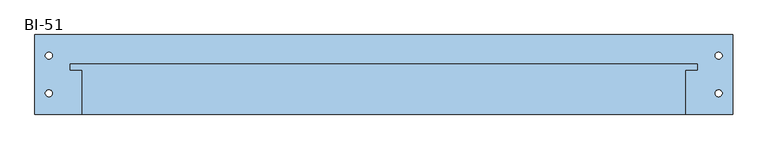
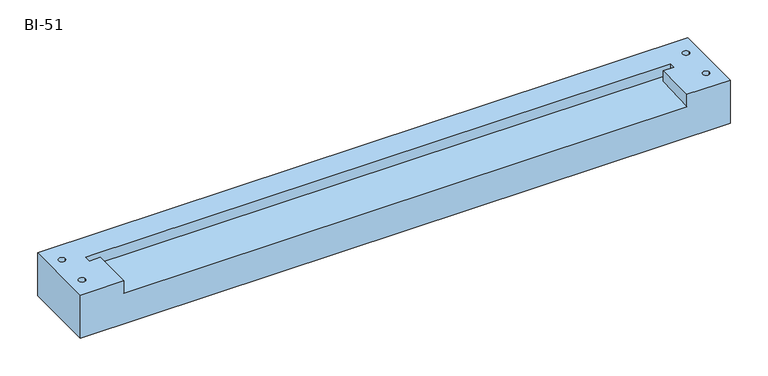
"""IFC4 building model written with IfcOpenShell, lengths in millimetres: window geometry, 30_NS_BI_51-57 : BI-51."""

from ifc_helpers import new_model, si_unit, frame, origin, place, context, project, spatial, polyline, circle_curve, source, transform, mapped, element, save
from ifc_brep_helpers import plane_surface, revolved_surface, advanced_brep


def bi_51_9fc36c22(model_context):
    return source(origin(), model_context, "Body", "AdvancedBrep", [
        advanced_brep(
        [(0.0, -114.0, 0.0), (0.0, 0.0, 0.0), (933.0, 0.0, 0.0), (1000.0, 0.0, 0.0), (1000.0, -114.0, 0.0), (975.0, -84.0, 0.0), (985.0, -84.0, 0.0), (975.0, -30.0, 0.0), (985.0, -30.0, 0.0), (15.0, -84.0, 0.0), (25.0, -84.0, 0.0), (15.0, -30.0, 0.0), (25.0, -30.0, 0.0), (0.0, -114.0, 70.0), (67.0, -114.0, 70.0), (67.0, -51.0, 70.0), (50.0, -51.0, 70.0), (50.0, -41.0, 70.0), (950.0, -41.0, 70.0), (950.0, -51.0, 70.0), (933.0, -51.0, 70.0), (933.0, -114.0, 70.0), (1000.0, -114.0, 70.0), (1000.0, 0.0, 70.0), (0.0, 0.0, 70.0), (985.0, -84.0, 70.0), (975.0, -84.0, 70.0), (985.0, -30.0, 70.0), (975.0, -30.0, 70.0), (25.0, -84.0, 70.0), (15.0, -84.0, 70.0), (25.0, -30.0, 70.0), (15.0, -30.0, 70.0), (50.0, -41.0, 53.0), (50.0, -51.0, 52.6232001), (67.0, -51.0, 52.6232001), (67.0, -114.0, 50.2493606), (933.0, -114.0, 50.2493606), (933.0, -51.0, 52.6232001), (950.0, -51.0, 52.6232001), (950.0, -41.0, 53.0), (933.0, -41.0, 53.0)],
        [
            (0, 1),
            (1, 2),
            (2, 3),
            (3, 4),
            (4, 0),
            (5, 6, circle_curve(frame((980.0, -84.0, 0.0), z_axis=(0.0, 0.0, 1.0), x_axis=(1.0, 0.0, 0.0)), 5.0)),
            (6, 5, circle_curve(frame((980.0, -84.0, 0.0), z_axis=(0.0, 0.0, 1.0), x_axis=(1.0, 0.0, 0.0)), 5.0)),
            (7, 8, circle_curve(frame((980.0, -30.0, 0.0), z_axis=(0.0, 0.0, 1.0), x_axis=(1.0, 0.0, 0.0)), 5.0)),
            (8, 7, circle_curve(frame((980.0, -30.0, 0.0), z_axis=(0.0, 0.0, 1.0), x_axis=(1.0, 0.0, 0.0)), 5.0)),
            (9, 10, circle_curve(frame((20.0, -84.0, 0.0), z_axis=(0.0, 0.0, 1.0), x_axis=(1.0, 0.0, 0.0)), 5.0)),
            (10, 9, circle_curve(frame((20.0, -84.0, 0.0), z_axis=(0.0, 0.0, 1.0), x_axis=(1.0, 0.0, 0.0)), 5.0)),
            (11, 12, circle_curve(frame((20.0, -30.0, 0.0), z_axis=(0.0, 0.0, 1.0), x_axis=(1.0, 0.0, 0.0)), 5.0)),
            (12, 11, circle_curve(frame((20.0, -30.0, 0.0), z_axis=(0.0, 0.0, 1.0), x_axis=(1.0, 0.0, 0.0)), 5.0)),
            (13, 14),
            (14, 15),
            (15, 16),
            (16, 17),
            (17, 18),
            (18, 19),
            (19, 20),
            (20, 21),
            (21, 22),
            (22, 23),
            (23, 24),
            (24, 13),
            (25, 26, circle_curve(frame((980.0, -84.0, 70.0), z_axis=(0.0, 0.0, -1.0), x_axis=(1.0, 0.0, 0.0)), 5.0)),
            (26, 25, circle_curve(frame((980.0, -84.0, 70.0), z_axis=(0.0, 0.0, -1.0), x_axis=(1.0, 0.0, 0.0)), 5.0)),
            (27, 28, circle_curve(frame((980.0, -30.0, 70.0), z_axis=(0.0, 0.0, -1.0), x_axis=(1.0, 0.0, 0.0)), 5.0)),
            (28, 27, circle_curve(frame((980.0, -30.0, 70.0), z_axis=(0.0, 0.0, -1.0), x_axis=(1.0, 0.0, 0.0)), 5.0)),
            (29, 30, circle_curve(frame((20.0, -84.0, 70.0), z_axis=(0.0, 0.0, -1.0), x_axis=(1.0, 0.0, 0.0)), 5.0)),
            (30, 29, circle_curve(frame((20.0, -84.0, 70.0), z_axis=(0.0, 0.0, -1.0), x_axis=(1.0, 0.0, 0.0)), 5.0)),
            (31, 32, circle_curve(frame((20.0, -30.0, 70.0), z_axis=(0.0, 0.0, -1.0), x_axis=(1.0, 0.0, 0.0)), 5.0)),
            (32, 31, circle_curve(frame((20.0, -30.0, 70.0), z_axis=(0.0, 0.0, -1.0), x_axis=(1.0, 0.0, 0.0)), 5.0)),
            (3, 23),
            (22, 4),
            (33, 34),
            (34, 35),
            (35, 36),
            (36, 37),
            (37, 38),
            (38, 39),
            (39, 40),
            (40, 41),
            (41, 33),
            (5, 26),
            (25, 6),
            (7, 28),
            (27, 8),
            (9, 30),
            (29, 10),
            (11, 32),
            (31, 12),
            (17, 33),
            (40, 18),
            (16, 34),
            (15, 35),
            (14, 36),
            (13, 0),
            (21, 37),
            (24, 1),
            (20, 38),
            (19, 39),
        ],
        [
            plane_surface(frame((0.0, 0.0, 0.0), z_axis=(0.0, 0.0, -1.0), x_axis=(1.0, 0.0, 0.0))),
            plane_surface(frame((0.0, 0.0, 70.0), z_axis=(0.0, 0.0, 1.0), x_axis=(1.0, 0.0, 0.0))),
            plane_surface(frame((1000.0, 0.0, 0.0), z_axis=(1.0, 0.0, 0.0), x_axis=(0.0, 0.0, 1.0))),
            plane_surface(frame((0.0, -114.0, 50.2493606), z_axis=(0.0, -0.03765327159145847, 0.9992908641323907), x_axis=(1.0, 0.0, 0.0))),
            revolved_surface(polyline([(985.0, -84.0, 0.0), (985.0, -84.0, 70.0)]), (980.0, -84.0, 0.0), (0.0, 0.0, -1.0)),
            revolved_surface(polyline([(985.0, -30.0, 0.0), (985.0, -30.0, 70.0)]), (980.0, -30.0, 0.0), (0.0, 0.0, -1.0)),
            revolved_surface(polyline([(25.0, -84.0, 0.0), (25.0, -84.0, 70.0)]), (20.0, -84.0, 0.0), (0.0, 0.0, -1.0)),
            revolved_surface(polyline([(25.0, -30.0, 0.0), (25.0, -30.0, 70.0)]), (20.0, -30.0, 0.0), (0.0, 0.0, -1.0)),
            plane_surface(frame((67.0, -41.0, 0.0), z_axis=(0.0, -1.0, 0.0), x_axis=(0.0, 0.0, 1.0))),
            plane_surface(frame((50.0, -41.0, 0.0), z_axis=(1.0, 0.0, 0.0), x_axis=(0.0, 0.0, 1.0))),
            plane_surface(frame((50.0, -51.0, 0.0), z_axis=(0.0, 1.0, 0.0), x_axis=(0.0, 0.0, 1.0))),
            plane_surface(frame((67.0, -51.0, 0.0), z_axis=(1.0, 0.0, 0.0), x_axis=(0.0, 0.0, 1.0))),
            plane_surface(frame((67.0, -114.0, 0.0), z_axis=(0.0, -1.0, 0.0), x_axis=(0.0, 0.0, 1.0))),
            plane_surface(frame((0.0, -114.0, 0.0), z_axis=(-1.0, 0.0, 0.0), x_axis=(0.0, 0.0, 1.0))),
            plane_surface(frame((0.0, 0.0, 0.0), z_axis=(0.0, 1.0, 0.0), x_axis=(0.0, 0.0, 1.0))),
            plane_surface(frame((933.0, -114.0, 0.0), z_axis=(-1.0, 0.0, 0.0), x_axis=(0.0, 0.0, 1.0))),
            plane_surface(frame((933.0, -51.0, 0.0), z_axis=(0.0, 1.0, 0.0), x_axis=(0.0, 0.0, 1.0))),
            plane_surface(frame((950.0, -51.0, 0.0), z_axis=(-1.0, 0.0, 0.0), x_axis=(0.0, 0.0, 1.0))),
        ],
        [
            (0, [[1, 2, 3, 4, 5], [6, 7], [8, 9], [10, 11], [12, 13]]),
            (1, [[14, 15, 16, 17, 18, 19, 20, 21, 22, 23, 24, 25], [26, 27], [28, 29], [30, 31], [32, 33]]),
            (2, [[-4, 34, -23, 35]]),
            (3, [[36, 37, 38, 39, 40, 41, 42, 43, 44]]),
            (4, [[45, -26, 46, -6]]),
            (4, [[-45, -7, -46, -27]]),
            (5, [[47, -28, 48, -8]]),
            (5, [[-47, -9, -48, -29]]),
            (6, [[49, -30, 50, -10]]),
            (6, [[-49, -11, -50, -31]]),
            (7, [[51, -32, 52, -12]]),
            (7, [[-51, -13, -52, -33]]),
            (8, [[53, -44, -43, 54, -18]]),
            (9, [[-17, 55, -36, -53]]),
            (10, [[-16, 56, -37, -55]]),
            (11, [[-15, 57, -38, -56]]),
            (12, [[-14, 58, -5, -35, -22, 59, -39, -57]]),
            (13, [[-1, -58, -25, 60]]),
            (14, [[-60, -24, -34, -3, -2]]),
            (15, [[-21, 61, -40, -59]]),
            (16, [[-20, 62, -41, -61]]),
            (17, [[-19, -54, -42, -62]]),
        ],
    ),
    ])


if __name__ == "__main__":
    model = new_model("IFC4")
    model_context = context("Model", 3, world=origin())
    ifc_project = project(units=[si_unit("LENGTHUNIT", "METRE", prefix="MILLI")], contexts=[model_context])
    site = spatial("IfcSite", under=ifc_project)
    building = spatial("IfcBuilding", under=site)
    placement = place(None, origin())
    bi_51_shape = bi_51_9fc36c22(model_context)
    element("IfcWindow", 1, ObjectType="30_NS_BI_51-57 : BI-51", at=placement, inside=building, context=model_context, shape_type="MappedRepresentation", body=[
        mapped(bi_51_shape, transform((0.0, 0.0, 0.0), x_axis=(1.0, 0.0, 0.0), y_axis=(0.0, 1.0, 0.0), z_axis=(0.0, 0.0, 1.0))),
    ])
    save(model, "model.ifc")
